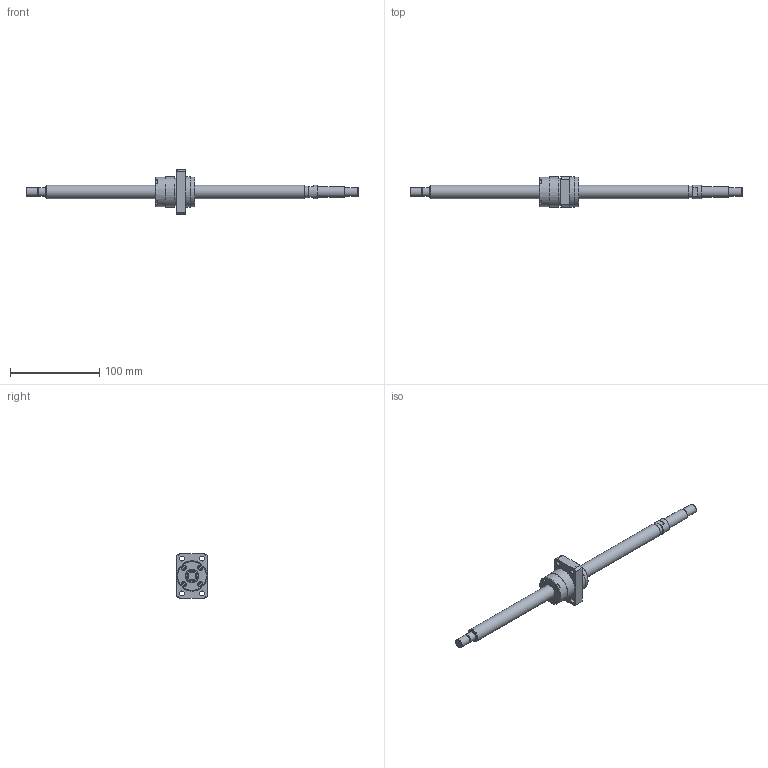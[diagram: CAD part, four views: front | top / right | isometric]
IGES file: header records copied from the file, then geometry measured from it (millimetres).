
Start section: Data from Parasolid IGES Translator 26.0.171, Copyright(c) 2006 Siemens PLM Software. All Rights Reserved.
Global section: file name: BNK1510-5.6G0+371LC5Y(166.50).igs; native system: By Siemens PLM Incorporated; preprocessor: XPlus GENERIC/IGES 26.0.171; author: Noname; organization: Noname; date: 20240709.092235; units: millimetre
Bounding box: 371 x 34 x 50 mm (x, y, z)
Surface area: 28771.6 mm2 (no closed solid volume)
Topology: 0 solids, 0 shells, 140 faces, 649 edges, 589 vertices
Faces by surface type: extrusion 76, revolution 64
